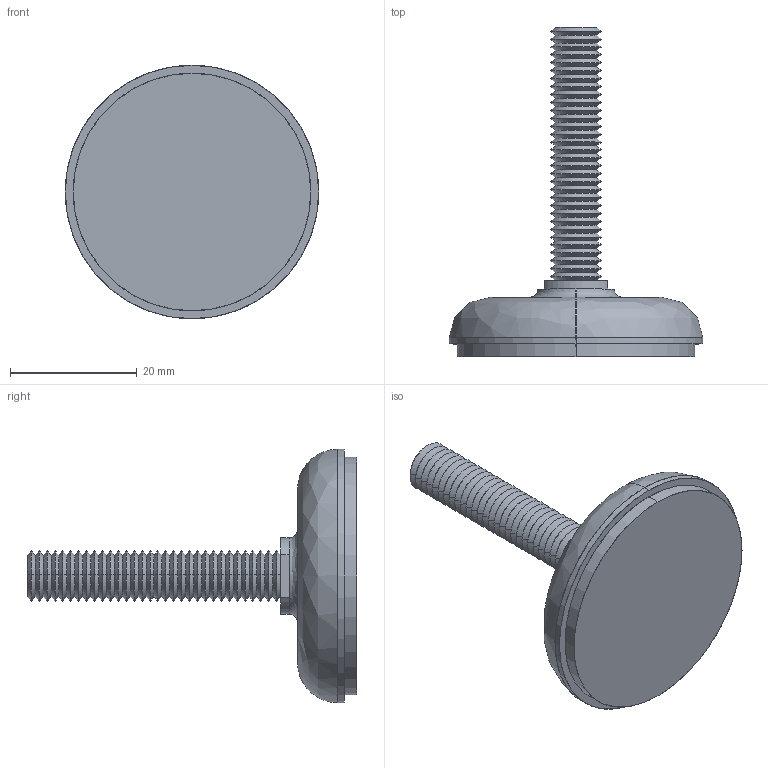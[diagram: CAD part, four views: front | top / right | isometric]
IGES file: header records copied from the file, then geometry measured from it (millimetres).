
Start section: SolidWorks IGES file using analytic representation for surfaces
Global section: file name: C:\Documents and Settings\IANO\Desktop\Temp File\Process pending\EXISTING\34780_v2\34780_v2_20170626_IGES\34780.W0082.igs; native system: SolidWorks 2009; preprocessor: SolidWorks 2009; author: IANO; date: 170626.122120; units: millimetre
Bounding box: 40 x 52 x 40 mm (x, y, z)
Surface area: 11105.4 mm2 (no closed solid volume)
Topology: 0 solids, 0 shells, 196 faces, 1666 edges, 1666 vertices
Faces by surface type: revolution 168, bspline 28
